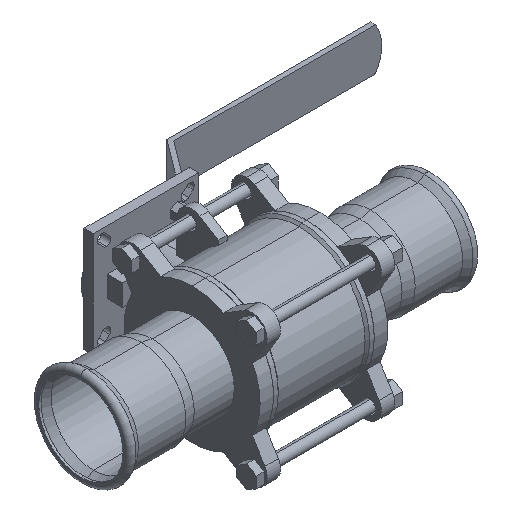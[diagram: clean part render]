
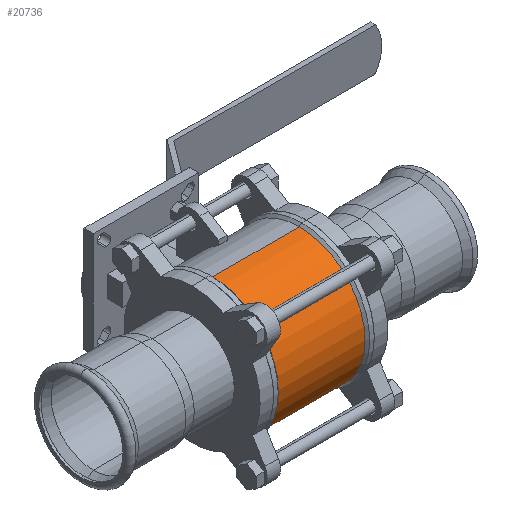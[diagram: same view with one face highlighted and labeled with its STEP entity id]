
A CAD part, isometric view. The second image highlights one B-rep face of the part: STEP entity #20736.
In plain terms, the highlighted cylindrical face has radius 42.35 mm (diameter 84.7 mm), a partial arc.
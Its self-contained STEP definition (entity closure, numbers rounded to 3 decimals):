
#726 = CIRCLE ( 'NONE', #22278, 42.35 ) ;
#1502 = CARTESIAN_POINT ( 'NONE',  ( 0., 0., -42.35 ) ) ;
#1604 = DIRECTION ( 'NONE',  ( 0., 0., 1. ) ) ;
#3417 = DIRECTION ( 'NONE',  ( -1., 0., 0. ) ) ;
#5732 = LINE ( 'NONE', #1502, #13845 ) ;
#6531 = ORIENTED_EDGE ( 'NONE', *, *, #19528, .F. ) ;
#6639 = CARTESIAN_POINT ( 'NONE',  ( -28., 0., 0. ) ) ;
#6783 = CARTESIAN_POINT ( 'NONE',  ( -28., 0., 42.35 ) ) ;
#6990 = CARTESIAN_POINT ( 'NONE',  ( 0., 0., 42.35 ) ) ;
#8252 = CYLINDRICAL_SURFACE ( 'NONE', #21859, 42.35 ) ;
#8912 = VERTEX_POINT ( 'NONE', #23997 ) ;
#8917 = EDGE_CURVE ( 'NONE', #23990, #8912, #5732, .T. ) ;
#10663 = DIRECTION ( 'NONE',  ( -1., 0., 0. ) ) ;
#10775 = EDGE_CURVE ( 'NONE', #25101, #19519, #29584, .T. ) ;
#10971 = DIRECTION ( 'NONE',  ( 0., 0., 1. ) ) ;
#11675 = VECTOR ( 'NONE', #23298, 1000. ) ;
#12481 = EDGE_LOOP ( 'NONE', ( #21643, #18572, #20587, #6531 ) ) ;
#12839 = DIRECTION ( 'NONE',  ( -1., 0., 0. ) ) ;
#13845 = VECTOR ( 'NONE', #10663, 1000. ) ;
#18215 = CARTESIAN_POINT ( 'NONE',  ( 28., 0., -42.35 ) ) ;
#18271 = DIRECTION ( 'NONE',  ( -1., 0., 0. ) ) ;
#18572 = ORIENTED_EDGE ( 'NONE', *, *, #29199, .T. ) ;
#19277 = CARTESIAN_POINT ( 'NONE',  ( 0., 0., 0. ) ) ;
#19519 = VERTEX_POINT ( 'NONE', #6783 ) ;
#19528 = EDGE_CURVE ( 'NONE', #8912, #19519, #726, .T. ) ;
#20587 = ORIENTED_EDGE ( 'NONE', *, *, #10775, .T. ) ;
#20736 = ADVANCED_FACE ( 'NONE', ( #24099 ), #8252, .T. ) ;
#21643 = ORIENTED_EDGE ( 'NONE', *, *, #8917, .F. ) ;
#21685 = DIRECTION ( 'NONE',  ( 0., 0., 1. ) ) ;
#21859 = AXIS2_PLACEMENT_3D ( 'NONE', #19277, #12839, #1604 ) ;
#22278 = AXIS2_PLACEMENT_3D ( 'NONE', #6639, #18271, #10971 ) ;
#23298 = DIRECTION ( 'NONE',  ( -1., 0., 0. ) ) ;
#23990 = VERTEX_POINT ( 'NONE', #18215 ) ;
#23997 = CARTESIAN_POINT ( 'NONE',  ( -28., 0., -42.35 ) ) ;
#24099 = FACE_OUTER_BOUND ( 'NONE', #12481, .T. ) ;
#25101 = VERTEX_POINT ( 'NONE', #27887 ) ;
#26317 = CARTESIAN_POINT ( 'NONE',  ( 28., 0., 0. ) ) ;
#27563 = CIRCLE ( 'NONE', #28508, 42.35 ) ;
#27887 = CARTESIAN_POINT ( 'NONE',  ( 28., 0., 42.35 ) ) ;
#28508 = AXIS2_PLACEMENT_3D ( 'NONE', #26317, #3417, #21685 ) ;
#29199 = EDGE_CURVE ( 'NONE', #23990, #25101, #27563, .T. ) ;
#29584 = LINE ( 'NONE', #6990, #11675 ) ;
